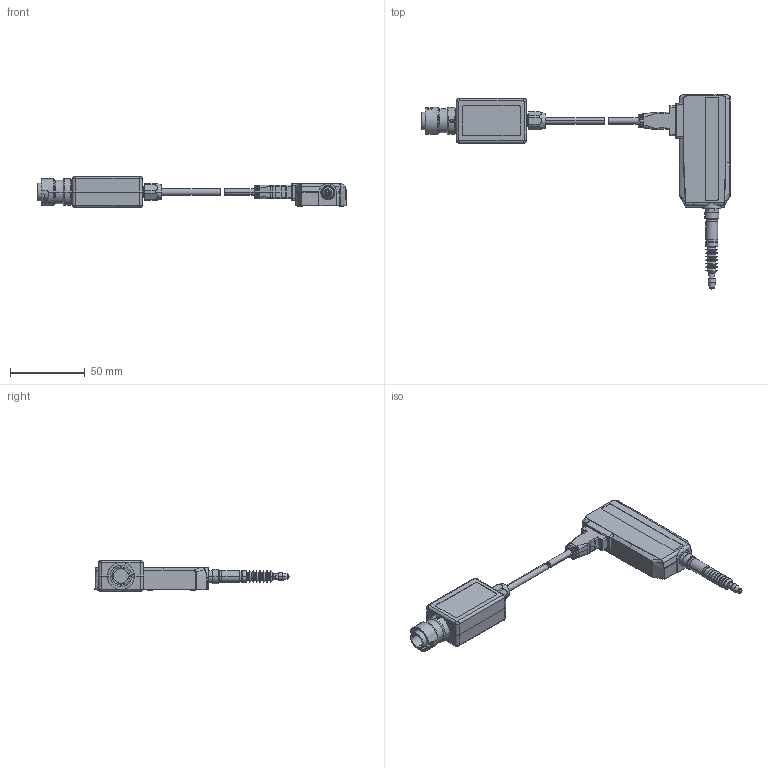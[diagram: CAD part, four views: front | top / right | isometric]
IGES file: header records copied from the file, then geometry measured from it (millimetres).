
Start section: Elysium IGES Interface
Global section: file name: 74HU:\cad_data\30_3D_CAD\LG\01_奜娤3D僨乕僞_20170921峏怴\IGES\LGF-0110L-B.igs; native system: Creo Elements/Direct Modeling 18.1B  29-Sep-2012; preprocessor: Creo Element/Direct IGES_3D V2.2; author: Unknown; organization: Unknown; date: 20171016.124954; units: millimetre
Bounding box: 205.89 x 129.5 x 20.4 mm (x, y, z)
Volume: 75532.4 mm3; surface area: 20952.6 mm2
Topology: 2 solids, 2 shells, 884 faces, 2248 edges, 1410 vertices
Faces by surface type: bspline 884
